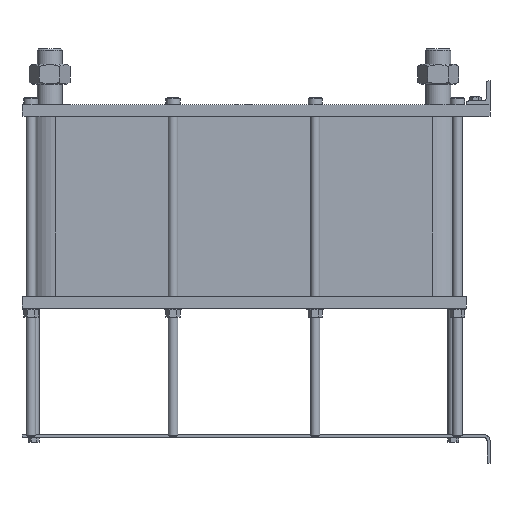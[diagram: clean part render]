
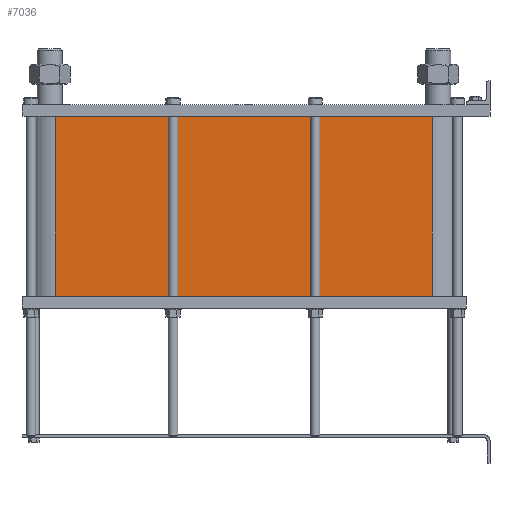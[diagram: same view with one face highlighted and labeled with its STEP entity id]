
A CAD part, left-side view. The second image highlights one B-rep face of the part: STEP entity #7036.
In plain terms, the highlighted planar face has unit normal (-1, 0, 0).
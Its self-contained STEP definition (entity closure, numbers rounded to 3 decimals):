
#999=LINE('',#15640,#1553);
#1031=LINE('',#15723,#1585);
#1032=LINE('',#15726,#1586);
#1033=LINE('',#15727,#1587);
#1553=VECTOR('',#9658,10.);
#1585=VECTOR('',#9736,10.);
#1586=VECTOR('',#9741,10.);
#1587=VECTOR('',#9742,10.);
#2117=FACE_OUTER_BOUND('',#2671,.T.);
#2671=EDGE_LOOP('',(#6246,#6247,#6248,#6249));
#3527=VERTEX_POINT('',#15634);
#3529=VERTEX_POINT('',#15638);
#3556=VERTEX_POINT('',#15720);
#3557=VERTEX_POINT('',#15722);
#4425=EDGE_CURVE('',#3529,#3527,#999,.T.);
#4466=EDGE_CURVE('',#3557,#3556,#1031,.T.);
#4468=EDGE_CURVE('',#3527,#3556,#1032,.T.);
#4469=EDGE_CURVE('',#3557,#3529,#1033,.T.);
#6246=ORIENTED_EDGE('',*,*,#4468,.F.);
#6247=ORIENTED_EDGE('',*,*,#4425,.F.);
#6248=ORIENTED_EDGE('',*,*,#4469,.F.);
#6249=ORIENTED_EDGE('',*,*,#4466,.T.);
#6608=PLANE('',#7812);
#7036=ADVANCED_FACE('',(#2117),#6608,.T.);
#7812=AXIS2_PLACEMENT_3D('',#15725,#9739,#9740);
#9658=DIRECTION('',(0.,0.,-1.));
#9736=DIRECTION('',(0.,0.,-1.));
#9739=DIRECTION('center_axis',(-1.,0.,0.));
#9740=DIRECTION('ref_axis',(0.,1.,0.));
#9741=DIRECTION('',(0.,1.,0.));
#9742=DIRECTION('',(0.,-1.,0.));
#15634=CARTESIAN_POINT('',(-72.,97.5,-303.8));
#15638=CARTESIAN_POINT('',(-72.,97.5,0.));
#15640=CARTESIAN_POINT('',(-72.,97.5,0.));
#15720=CARTESIAN_POINT('',(-72.,733.5,-303.8));
#15722=CARTESIAN_POINT('',(-72.,733.5,0.));
#15723=CARTESIAN_POINT('',(-72.,733.5,0.));
#15725=CARTESIAN_POINT('Origin',(-72.,97.5,0.));
#15726=CARTESIAN_POINT('',(-72.,256.5,-303.8));
#15727=CARTESIAN_POINT('',(-72.,733.5,0.));
